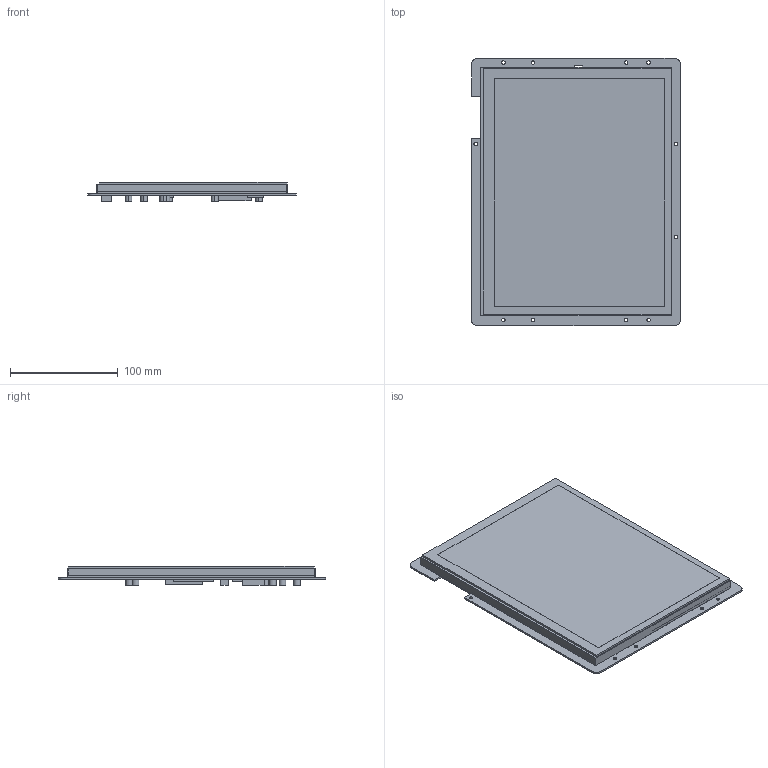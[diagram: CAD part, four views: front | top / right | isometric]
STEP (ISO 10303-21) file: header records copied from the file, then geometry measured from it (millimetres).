
FILE_DESCRIPTION((''),'2;1');
FILE_NAME('DMG10768K104-03WTC','2022-02-17T',('Administrator'),(''),'PRO/ENGINEER BY PARAMETRIC TECHNOLOGY CORPORATION, 2011310','PRO/ENGINEER BY PARAMETRIC TECHNOLOGY CORPORATION, 2011310','');
FILE_SCHEMA(('CONFIG_CONTROL_DESIGN','SHAPE_APPEARANCE_LAYERS_GROUPS'));
Length unit declared in the file: millimetre
Products named in the file (1): DMG10768K104-03WTC
Bounding box: 193.67 x 247.78 x 17.7 mm (x, y, z)
Volume: 388234.4 mm3; surface area: 267022.7 mm2
Topology: 1 solids, 2 shells, 201 faces, 596 edges, 380 vertices
Faces by surface type: plane 157, cylinder 44
Entity records: 8077 total; most frequent: ORIENTED_EDGE 1192, CARTESIAN_POINT 1177, DIRECTION 1086, EDGE_CURVE 596, VECTOR 508, LINE 508, VERTEX_POINT 380, AXIS2_PLACEMENT_3D 289
